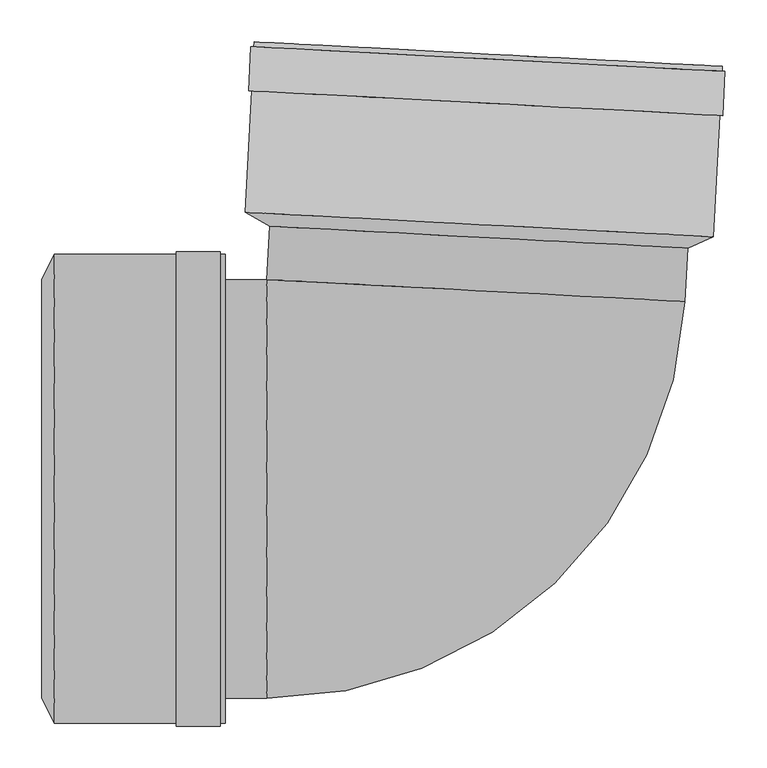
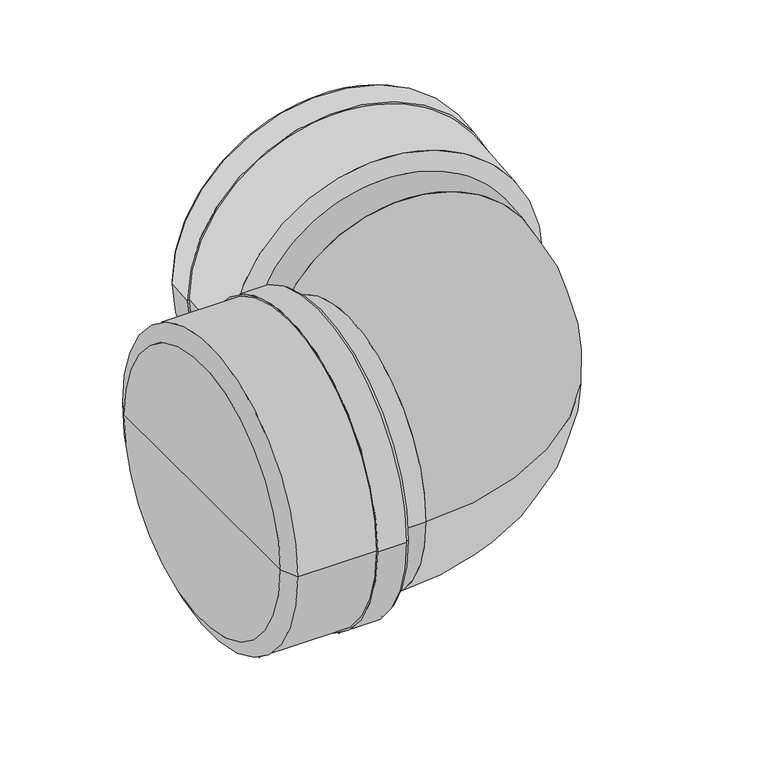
"""IFC4 building model written with IfcOpenShell, lengths in millimetres: pipe fitting geometry, pf_KGB : pf_KGB."""

from ifc_helpers import new_model, si_unit, point, frame, origin, origin_2d, place, context, project, spatial, polyline, circle_curve, ellipse_curve, trimmed, segment, composite_curve, outline, extrude, source, transform, mapped, element, save
from ifc_brep_helpers import plane_surface, cylinder_surface, revolved_surface, advanced_brep


def pipe_fitting_4d8cb074(model_context):
    return source(origin(), model_context, "Body", "SolidModel", [
        advanced_brep(
        [(265.4157401, 287.6033639, 0.0), (-233.8990273, 313.771342, 0.0), (-263.1675033, 330.4259602, 0.0), (296.264762, 301.1073575, 0.0), (15.7583564, 300.6873529, 0.0), (306.9360635, 504.7279197, 0.0), (-252.4962018, 534.0465224, 0.0), (-222.4374528, 532.4712101, 0.0), (276.8773145, 506.303232, 0.0), (-252.7997504, 528.2544711, 0.0), (306.632515, 498.9358684, 0.0), (-256.1950908, 528.4324133, 0.0), (310.0278554, 498.7579261, 0.0), (-258.9636629, 475.6049109, 0.0), (307.2592833, 445.9304237, 0.0), (-255.5683225, 475.4269687, 0.0), (303.8639429, 446.108366, 0.0), (266.2060131, 302.6826698, 0.0), (-233.1087543, 328.850648, 0.0), (16.5486294, 315.7666589, 0.0)],
        [
            (0, 1, circle_curve(frame((15.7583564, 300.6873529, 0.0), z_axis=(0.052335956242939, 0.9986295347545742, 0.0), x_axis=(-0.9986295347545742, 0.052335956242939, 0.0)), 250.0)),
            (1, 2),
            (2, 3, circle_curve(frame((16.5486294, 315.7666589, 0.0), z_axis=(-0.052335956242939, -0.9986295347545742, 0.0), x_axis=(-0.9986295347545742, 0.052335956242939, 0.0)), 280.1)),
            (3, 0),
            (1, 0, circle_curve(frame((15.7583564, 300.6873529, 0.0), z_axis=(0.052335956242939, 0.9986295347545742, 0.0), x_axis=(-0.9986295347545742, 0.052335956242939, 0.0)), 250.0)),
            (3, 2, circle_curve(frame((16.5486294, 315.7666589, 0.0), z_axis=(-0.052335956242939, -0.9986295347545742, 0.0), x_axis=(-0.9986295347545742, 0.052335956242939, 0.0)), 280.1)),
            (4, 1),
            (0, 4),
            (5, 6, circle_curve(frame((27.2199308, 519.387221, 0.0), z_axis=(0.052335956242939, 0.9986295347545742, 0.0), x_axis=(-0.9986295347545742, 0.052335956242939, 0.0)), 280.1)),
            (6, 7),
            (7, 8, circle_curve(frame((27.2199308, 519.387221, 0.0), z_axis=(-0.052335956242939, -0.9986295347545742, 0.0), x_axis=(-0.9986295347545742, 0.052335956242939, 0.0)), 250.0)),
            (8, 5),
            (9, 10, circle_curve(frame((26.9163823, 513.5951697, 0.0), z_axis=(0.052335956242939, 0.9986295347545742, 0.0), x_axis=(-0.9986295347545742, 0.052335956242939, 0.0)), 280.1)),
            (10, 5),
            (5, 6, circle_curve(frame((27.2199308, 519.387221, 0.0), z_axis=(-0.052335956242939, -0.9986295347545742, 0.0), x_axis=(-0.9986295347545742, 0.052335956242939, 0.0)), 280.1)),
            (6, 9),
            (11, 12, circle_curve(frame((26.9163823, 513.5951697, 0.0), z_axis=(0.052335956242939, 0.9986295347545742, 0.0), x_axis=(-0.9986295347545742, 0.052335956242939, 0.0)), 283.5)),
            (12, 10),
            (9, 11),
            (13, 14, circle_curve(frame((24.1478102, 460.7676673, 0.0), z_axis=(0.052335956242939, 0.9986295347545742, 0.0), x_axis=(-0.9986295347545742, 0.052335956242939, 0.0)), 283.5)),
            (14, 12),
            (11, 13),
            (15, 16, circle_curve(frame((24.1478102, 460.7676673, 0.0), z_axis=(0.052335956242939, 0.9986295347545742, 0.0), x_axis=(-0.9986295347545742, 0.052335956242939, 0.0)), 280.1)),
            (16, 14),
            (13, 15),
            (8, 7, circle_curve(frame((27.2199308, 519.387221, 0.0), z_axis=(-0.052335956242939, -0.9986295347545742, 0.0), x_axis=(-0.9986295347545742, 0.052335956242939, 0.0)), 250.0)),
            (10, 9, circle_curve(frame((26.9163823, 513.5951697, 0.0), z_axis=(0.052335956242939, 0.9986295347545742, 0.0), x_axis=(-0.9986295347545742, 0.052335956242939, 0.0)), 280.1)),
            (12, 11, circle_curve(frame((26.9163823, 513.5951697, 0.0), z_axis=(0.052335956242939, 0.9986295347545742, 0.0), x_axis=(-0.9986295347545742, 0.052335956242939, 0.0)), 283.5)),
            (14, 13, circle_curve(frame((24.1478102, 460.7676673, 0.0), z_axis=(0.052335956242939, 0.9986295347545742, 0.0), x_axis=(-0.9986295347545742, 0.052335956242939, 0.0)), 283.5)),
            (16, 15, circle_curve(frame((24.1478102, 460.7676673, 0.0), z_axis=(0.052335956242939, 0.9986295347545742, 0.0), x_axis=(-0.9986295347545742, 0.052335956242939, 0.0)), 280.1)),
            (2, 15),
            (16, 3),
            (17, 18, circle_curve(frame((16.5486294, 315.7666589, 0.0), z_axis=(0.052335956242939, 0.9986295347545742, 0.0), x_axis=(-0.9986295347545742, 0.052335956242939, 0.0)), 250.0)),
            (18, 19),
            (19, 17),
            (18, 17, circle_curve(frame((16.5486294, 315.7666589, 0.0), z_axis=(0.052335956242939, 0.9986295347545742, 0.0), x_axis=(-0.9986295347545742, 0.052335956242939, 0.0)), 250.0)),
            (7, 18),
            (17, 8),
        ],
        [
            revolved_surface(polyline([(-263.1675033, 330.4259602, 0.0), (-233.8990273, 313.771342, 0.0)]), (15.7583564, 300.6873529, 0.0), (-0.052335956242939, -0.9986295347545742, 0.0)),
            plane_surface(frame((15.7583564, 300.6873529, 0.0), z_axis=(-0.052335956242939, -0.9986295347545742, 0.0), x_axis=(-0.9986295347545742, 0.052335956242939, 0.0))),
            plane_surface(frame((27.2199308, 519.387221, 0.0), z_axis=(0.052335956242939, 0.9986295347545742, 0.0), x_axis=(-0.9986295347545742, 0.052335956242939, 0.0))),
            cylinder_surface(frame((15.7583564, 300.6873529, 0.0), z_axis=(-0.052335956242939, -0.9986295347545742, 0.0), x_axis=(-0.9986295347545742, 0.052335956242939, 0.0)), 280.1),
            plane_surface(frame((26.9163823, 513.5951697, 0.0), z_axis=(0.052335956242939, 0.9986295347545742, 0.0), x_axis=(-0.9986295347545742, 0.052335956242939, 0.0))),
            cylinder_surface(frame((15.7583564, 300.6873529, 0.0), z_axis=(-0.052335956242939, -0.9986295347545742, 0.0), x_axis=(-0.9986295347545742, 0.052335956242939, 0.0)), 283.5),
            plane_surface(frame((24.1478102, 460.7676673, 0.0), z_axis=(-0.052335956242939, -0.9986295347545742, 0.0), x_axis=(-0.9986295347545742, 0.052335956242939, 0.0))),
            plane_surface(frame((16.5486294, 315.7666589, 0.0), z_axis=(0.052335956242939, 0.9986295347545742, 0.0), x_axis=(-0.9986295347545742, 0.052335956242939, 0.0))),
            revolved_surface(polyline([(-233.10875434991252, 328.8506479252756, 0.0), (-222.4374528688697, 532.4712101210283, 0.0)]), (15.7583564, 300.6873529, 0.0), (-0.052335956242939, -0.9986295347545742, 0.0)),
        ],
        [
            (0, [[1, 2, 3, 4]]),
            (0, [[5, -4, 6, -2]]),
            (1, [[7, -1, 8]]),
            (1, [[-8, -5, -7]]),
            (2, [[9, 10, 11, 12]]),
            (3, [[13, 14, 15, 16]]),
            (4, [[17, 18, -13, 19]]),
            (5, [[20, 21, -17, 22]]),
            (6, [[23, 24, -20, 25]]),
            (2, [[-15, -12, 26, -10]]),
            (3, [[27, -16, -9, -14]]),
            (4, [[28, -19, -27, -18]]),
            (5, [[29, -22, -28, -21]]),
            (6, [[30, -25, -29, -24]]),
            (3, [[-3, 31, -30, 32]]),
            (3, [[-6, -32, -23, -31]]),
            (7, [[33, 34, 35]]),
            (7, [[36, -35, -34]]),
            (8, [[-11, 37, -33, 38]]),
            (8, [[-26, -38, -36, -37]]),
        ],
    ),
        advanced_brep(
        [(-506.1, -250.0, 0.0), (-506.1, 250.0, 0.0), (-491.0, 280.1, 0.0), (-491.0, -280.1, 0.0), (-506.1, 0.0, 0.0), (-287.1, -280.1, 0.0), (-287.1, 280.1, 0.0), (-287.1, 250.0, 0.0), (-287.1, -250.0, 0.0), (-292.9, 280.1, 0.0), (-292.9, -280.1, 0.0), (-292.9, 283.5, 0.0), (-292.9, -283.5, 0.0), (-345.8, 283.5, 0.0), (-345.8, -283.5, 0.0), (-345.8, 280.1, 0.0), (-345.8, -280.1, 0.0), (-491.0, -250.0, 0.0), (-491.0, 250.0, 0.0), (-491.0, 0.0, 0.0)],
        [
            (0, 1, circle_curve(frame((-506.1, 0.0, 0.0), z_axis=(1.0, 0.0, 0.0), x_axis=(0.0, 1.0, 0.0)), 250.0)),
            (1, 2),
            (2, 3, circle_curve(frame((-491.0, 0.0, 0.0), z_axis=(-1.0, 0.0, 0.0), x_axis=(0.0, 1.0, 0.0)), 280.1)),
            (3, 0),
            (1, 0, circle_curve(frame((-506.1, 0.0, 0.0), z_axis=(1.0, 0.0, 0.0), x_axis=(0.0, 1.0, 0.0)), 250.0)),
            (3, 2, circle_curve(frame((-491.0, 0.0, 0.0), z_axis=(-1.0, 0.0, 0.0), x_axis=(0.0, 1.0, 0.0)), 280.1)),
            (4, 1),
            (0, 4),
            (5, 6, circle_curve(frame((-287.1, 0.0, 0.0), z_axis=(1.0, 0.0, 0.0), x_axis=(0.0, 1.0, 0.0)), 280.1)),
            (6, 7),
            (7, 8, circle_curve(frame((-287.1, 0.0, 0.0), z_axis=(-1.0, 0.0, 0.0), x_axis=(0.0, 1.0, 0.0)), 250.0)),
            (8, 5),
            (9, 10, circle_curve(frame((-292.9, 0.0, 0.0), z_axis=(1.0, 0.0, 0.0), x_axis=(0.0, 1.0, 0.0)), 280.1)),
            (10, 5),
            (5, 6, circle_curve(frame((-287.1, 0.0, 0.0), z_axis=(-1.0, 0.0, 0.0), x_axis=(0.0, 1.0, 0.0)), 280.1)),
            (6, 9),
            (11, 12, circle_curve(frame((-292.9, 0.0, 0.0), z_axis=(1.0, 0.0, 0.0), x_axis=(0.0, 1.0, 0.0)), 283.5)),
            (12, 10),
            (9, 11),
            (13, 14, circle_curve(frame((-345.8, 0.0, 0.0), z_axis=(1.0, 0.0, 0.0), x_axis=(0.0, 1.0, 0.0)), 283.5)),
            (14, 12),
            (11, 13),
            (15, 16, circle_curve(frame((-345.8, 0.0, 0.0), z_axis=(1.0, 0.0, 0.0), x_axis=(0.0, 1.0, 0.0)), 280.1)),
            (16, 14),
            (13, 15),
            (8, 7, circle_curve(frame((-287.1, 0.0, 0.0), z_axis=(-1.0, 0.0, 0.0), x_axis=(0.0, 1.0, 0.0)), 250.0)),
            (10, 9, circle_curve(frame((-292.9, 0.0, 0.0), z_axis=(1.0, 0.0, 0.0), x_axis=(0.0, 1.0, 0.0)), 280.1)),
            (12, 11, circle_curve(frame((-292.9, 0.0, 0.0), z_axis=(1.0, 0.0, 0.0), x_axis=(0.0, 1.0, 0.0)), 283.5)),
            (14, 13, circle_curve(frame((-345.8, 0.0, 0.0), z_axis=(1.0, 0.0, 0.0), x_axis=(0.0, 1.0, 0.0)), 283.5)),
            (16, 15, circle_curve(frame((-345.8, 0.0, 0.0), z_axis=(1.0, 0.0, 0.0), x_axis=(0.0, 1.0, 0.0)), 280.1)),
            (2, 15),
            (16, 3),
            (17, 18, circle_curve(frame((-491.0, 0.0, 0.0), z_axis=(1.0, 0.0, 0.0), x_axis=(0.0, 1.0, 0.0)), 250.0)),
            (18, 19),
            (19, 17),
            (18, 17, circle_curve(frame((-491.0, 0.0, 0.0), z_axis=(1.0, 0.0, 0.0), x_axis=(0.0, 1.0, 0.0)), 250.0)),
            (7, 18),
            (17, 8),
        ],
        [
            revolved_surface(polyline([(-491.0, 280.1, 0.0), (-506.1, 250.0, 0.0)]), (-506.1, 0.0, 0.0), (-1.0, 0.0, 0.0)),
            plane_surface(frame((-506.1, 0.0, 0.0), z_axis=(-1.0, 0.0, 0.0), x_axis=(0.0, 1.0, 0.0))),
            plane_surface(frame((-287.1, 0.0, 0.0), z_axis=(1.0, 0.0, 0.0), x_axis=(0.0, 1.0, 0.0))),
            cylinder_surface(frame((-506.1, 0.0, 0.0), z_axis=(-1.0, 0.0, 0.0), x_axis=(0.0, 1.0, 0.0)), 280.1),
            plane_surface(frame((-292.9, 0.0, 0.0), z_axis=(1.0, 0.0, 0.0), x_axis=(0.0, 1.0, 0.0))),
            cylinder_surface(frame((-506.1, 0.0, 0.0), z_axis=(-1.0, 0.0, 0.0), x_axis=(0.0, 1.0, 0.0)), 283.5),
            plane_surface(frame((-345.8, 0.0, 0.0), z_axis=(-1.0, 0.0, 0.0), x_axis=(0.0, 1.0, 0.0))),
            plane_surface(frame((-491.0, 0.0, 0.0), z_axis=(1.0, 0.0, 0.0), x_axis=(0.0, 1.0, 0.0))),
            revolved_surface(polyline([(-491.0, 250.0, 0.0), (-287.1, 250.0, 0.0)]), (-506.1, 0.0, 0.0), (-1.0, 0.0, 0.0)),
        ],
        [
            (0, [[1, 2, 3, 4]]),
            (0, [[5, -4, 6, -2]]),
            (1, [[7, -1, 8]]),
            (1, [[-8, -5, -7]]),
            (2, [[9, 10, 11, 12]]),
            (3, [[13, 14, 15, 16]]),
            (4, [[17, 18, -13, 19]]),
            (5, [[20, 21, -17, 22]]),
            (6, [[23, 24, -20, 25]]),
            (2, [[-15, -12, 26, -10]]),
            (3, [[27, -16, -9, -14]]),
            (4, [[28, -19, -27, -18]]),
            (5, [[29, -22, -28, -21]]),
            (6, [[30, -25, -29, -24]]),
            (3, [[-3, 31, -30, 32]]),
            (3, [[-6, -32, -23, -31]]),
            (7, [[33, 34, 35]]),
            (7, [[36, -35, -34]]),
            (8, [[-11, 37, -33, 38]]),
            (8, [[-26, -38, -36, -37]]),
        ],
    ),
        extrude(outline(composite_curve([segment(trimmed(circle_curve(origin_2d(), 250.0), [point((0.0, -250.0))], [point((0.0, 250.0))], False, "CARTESIAN"), True, "CONTINUOUS"), segment(trimmed(circle_curve(origin_2d(), 250.0), [point((0.0, 250.0))], [point((0.0, -250.0))], False, "CARTESIAN"), True, "CONTINUOUS")], self_intersect=False)), frame((12.416242, 236.9160109, 0.0), z_axis=(0.0523359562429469, 0.9986295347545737, 0.0), x_axis=(0.0, 0.0, 1.0)), (0.0, 0.0, 1.0), 63.8588583),
        extrude(outline(composite_curve([segment(trimmed(circle_curve(origin_2d(), 250.0), [point((-250.0, 0.0))], [point((250.0, 0.0))], False, "CARTESIAN"), True, "CONTINUOUS"), segment(trimmed(circle_curve(origin_2d(), 250.0), [point((250.0, 0.0))], [point((-250.0, 0.0))], False, "CARTESIAN"), True, "CONTINUOUS")], self_intersect=False)), frame((-491.0, 0.0, 0.0), z_axis=(1.0, 0.0, 0.0), x_axis=(0.0, 1.0, 0.0)), (0.0, 0.0, 1.0), 253.7588583),
        advanced_brep(
        [(-237.2411417, -250.0, 0.0), (-237.2411417, 250.0, 0.0), (262.0736257, 223.8320219, 0.0)],
        [
            (0, 1, circle_curve(frame((-237.2411417, 0.0, 0.0), z_axis=(-1.0, 0.0, 0.0), x_axis=(0.0, 1.0, 0.0)), 250.0)),
            (1, 0, circle_curve(frame((-237.2411417, 0.0, 0.0), z_axis=(-1.0, 0.0, 0.0), x_axis=(0.0, 1.0, 0.0)), 250.0)),
            (2, 1, circle_curve(frame((12.416242, 236.9160109, 0.0), z_axis=(0.05233595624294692, 0.9986295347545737, 0.0), x_axis=(-0.9986295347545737, 0.05233595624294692, 0.0)), 250.0)),
            (1, 2, circle_curve(frame((12.416242, 236.9160109, 0.0), z_axis=(0.05233595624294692, 0.9986295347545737, 0.0), x_axis=(-0.9986295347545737, 0.05233595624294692, 0.0)), 250.0)),
            (2, 0, circle_curve(frame((-237.2411417, 250.0, 0.0), z_axis=(0.0, 0.0, -1.0), x_axis=(0.0, -1.0, 0.0)), 500.0)),
        ],
        [
            plane_surface(frame((-237.2411417, 250.0, -14.8), z_axis=(-1.0, 0.0, 0.0), x_axis=(0.0, -1.0, 0.0))),
            plane_surface(frame((-237.2411417, 250.0, -14.8), z_axis=(0.052335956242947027, 0.9986295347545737, 0.0), x_axis=(0.9986295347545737, -0.052335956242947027, 0.0))),
            revolved_surface(trimmed(ellipse_curve(frame((-237.2411417, 0.0, 0.0), z_axis=(1.0, 0.0, 0.0), x_axis=(0.0, 1.0, 0.0)), 250.0, 250.0), [point((-237.2411417, -250.0, 0.0))], [point((-237.2411417, 250.0, 0.0))], True, "CARTESIAN"), (-237.2411417, 250.0, -14.8), (0.0, 0.0, -1.0)),
            revolved_surface(trimmed(ellipse_curve(frame((-237.2411417, 0.0, 0.0), z_axis=(1.0, 0.0, 0.0), x_axis=(0.0, 1.0, 0.0)), 250.0, 250.0), [point((-237.2411417, 250.0, 0.0))], [point((-237.2411417, -250.0, 0.0))], True, "CARTESIAN"), (-237.2411417, 250.0, -14.8), (0.0, 0.0, -1.0)),
        ],
        [
            (0, [[1, 2]]),
            (1, [[3, 4]]),
            (2, [[5, -2, -3]]),
            (3, [[-1, -5, -4]]),
        ],
    ),
    ])


if __name__ == "__main__":
    model = new_model("IFC4")
    model_context = context("Model", 3, world=origin())
    ifc_project = project(units=[si_unit("LENGTHUNIT", "METRE", prefix="MILLI")], contexts=[model_context])
    site = spatial("IfcSite", under=ifc_project)
    building = spatial("IfcBuilding", under=site)
    placement = place(None, origin())
    pipe_fitting_shape = pipe_fitting_4d8cb074(model_context)
    element("IfcPipeFitting", 1, ObjectType="pf_KGB : pf_KGB", at=placement, inside=building, context=model_context, shape_type="MappedRepresentation", body=[
        mapped(pipe_fitting_shape, transform((0.0, 0.0, 0.0), x_axis=(1.0, 0.0, 0.0), y_axis=(0.0, 1.0, 0.0), z_axis=(0.0, 0.0, 1.0))),
    ])
    save(model, "model.ifc")
